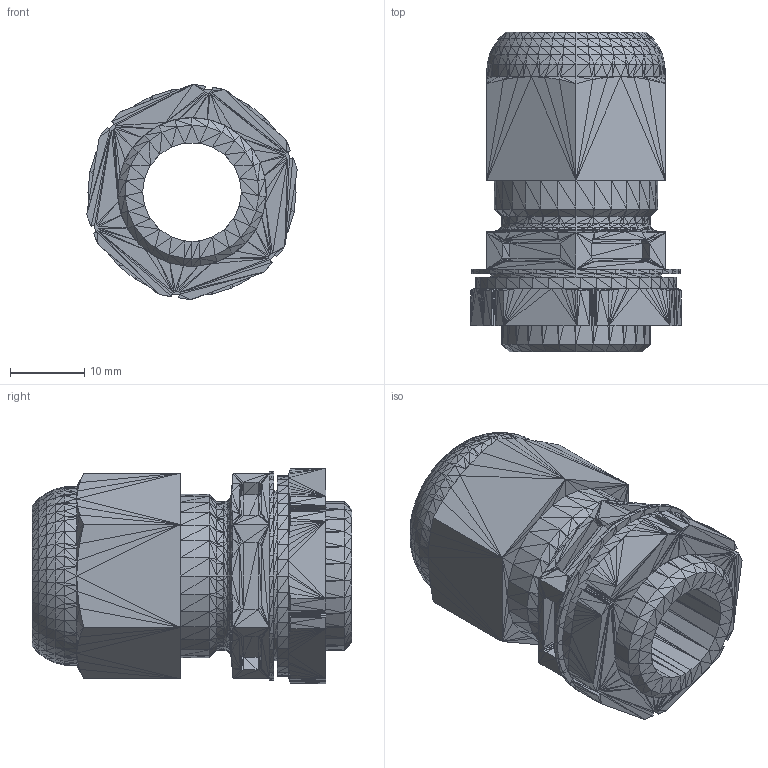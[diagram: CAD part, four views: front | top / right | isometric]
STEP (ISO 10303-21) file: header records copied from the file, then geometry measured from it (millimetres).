
FILE_DESCRIPTION((''),'2;1');
FILE_NAME('051240', '2025-12-17T08:16:23', (''), (''), 'ImageToStl.com STEP Converter','', '');
FILE_SCHEMA(('AUTOMOTIVE_DESIGN_CC2'));
Length unit declared in the file: metre
Products named in the file (1): product0
Bounding box: 28.34 x 43 x 29 mm (x, y, z)
Surface area: 8804.9 mm2 (no closed solid volume)
Topology: 0 solids, 6768 shells, 6768 faces, 20304 edges, 3384 vertices
Faces by surface type: plane 6768
Entity records: 155692 total; most frequent: DIRECTION 33842, ORIENTED_EDGE 20304, EDGE_CURVE 20304, LINE 20304, VECTOR 20304, AXIS2_PLACEMENT_3D 6769, FACE_SURFACE 6768, PLANE 6768
